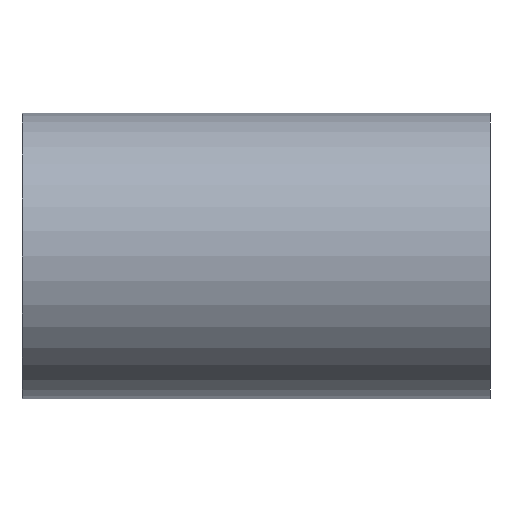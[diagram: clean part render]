
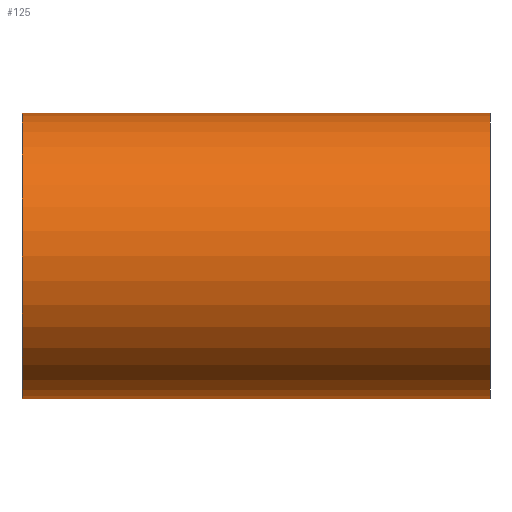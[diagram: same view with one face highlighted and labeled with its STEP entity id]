
A CAD part, front view. The second image highlights one B-rep face of the part: STEP entity #125.
In plain terms, the highlighted cylindrical face has radius 304.8 mm (diameter 609.6 mm), a partial arc.
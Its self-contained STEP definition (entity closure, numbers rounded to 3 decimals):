
#1 = CARTESIAN_POINT ( 'NONE',  ( 1000., 0., 304.8 ) ) ;
#7 = DIRECTION ( 'NONE',  ( 1., 0., 0. ) ) ;
#9 = DIRECTION ( 'NONE',  ( 0., 0., -1. ) ) ;
#13 = EDGE_LOOP ( 'NONE', ( #89, #60, #158, #162 ) ) ;
#19 = AXIS2_PLACEMENT_3D ( 'NONE', #130, #185, #203 ) ;
#21 = CARTESIAN_POINT ( 'NONE',  ( 0., 0., 304.8 ) ) ;
#25 = CIRCLE ( 'NONE', #83, 304.8 ) ;
#33 = LINE ( 'NONE', #145, #57 ) ;
#42 = VERTEX_POINT ( 'NONE', #1 ) ;
#52 = DIRECTION ( 'NONE',  ( 0., 0., -1. ) ) ;
#55 = CARTESIAN_POINT ( 'NONE',  ( 0., 0., 0. ) ) ;
#57 = VECTOR ( 'NONE', #127, 1000. ) ;
#60 = ORIENTED_EDGE ( 'NONE', *, *, #200, .F. ) ;
#83 = AXIS2_PLACEMENT_3D ( 'NONE', #150, #7, #9 ) ;
#84 = DIRECTION ( 'NONE',  ( -1., 0., 0. ) ) ;
#89 = ORIENTED_EDGE ( 'NONE', *, *, #91, .F. ) ;
#91 = EDGE_CURVE ( 'NONE', #137, #193, #33, .T. ) ;
#95 = LINE ( 'NONE', #198, #148 ) ;
#98 = EDGE_CURVE ( 'NONE', #42, #188, #95, .T. ) ;
#112 = CARTESIAN_POINT ( 'NONE',  ( 1000., 0., -304.8 ) ) ;
#114 = AXIS2_PLACEMENT_3D ( 'NONE', #55, #134, #52 ) ;
#125 = ADVANCED_FACE ( 'NONE', ( #184 ), #166, .T. ) ;
#127 = DIRECTION ( 'NONE',  ( -1., 0., 0. ) ) ;
#130 = CARTESIAN_POINT ( 'NONE',  ( 1000., 0., 0. ) ) ;
#134 = DIRECTION ( 'NONE',  ( 1., 0., 0. ) ) ;
#136 = CIRCLE ( 'NONE', #114, 304.8 ) ;
#137 = VERTEX_POINT ( 'NONE', #112 ) ;
#145 = CARTESIAN_POINT ( 'NONE',  ( 1000., 0., -304.8 ) ) ;
#148 = VECTOR ( 'NONE', #84, 1000. ) ;
#150 = CARTESIAN_POINT ( 'NONE',  ( 1000., 0., 0. ) ) ;
#158 = ORIENTED_EDGE ( 'NONE', *, *, #98, .T. ) ;
#162 = ORIENTED_EDGE ( 'NONE', *, *, #183, .T. ) ;
#166 = CYLINDRICAL_SURFACE ( 'NONE', #19, 304.8 ) ;
#183 = EDGE_CURVE ( 'NONE', #188, #193, #136, .T. ) ;
#184 = FACE_OUTER_BOUND ( 'NONE', #13, .T. ) ;
#185 = DIRECTION ( 'NONE',  ( -1., 0., 0. ) ) ;
#188 = VERTEX_POINT ( 'NONE', #21 ) ;
#189 = CARTESIAN_POINT ( 'NONE',  ( 0., 0., -304.8 ) ) ;
#193 = VERTEX_POINT ( 'NONE', #189 ) ;
#198 = CARTESIAN_POINT ( 'NONE',  ( 1000., 0., 304.8 ) ) ;
#200 = EDGE_CURVE ( 'NONE', #42, #137, #25, .T. ) ;
#203 = DIRECTION ( 'NONE',  ( 0., 0., 1. ) ) ;
